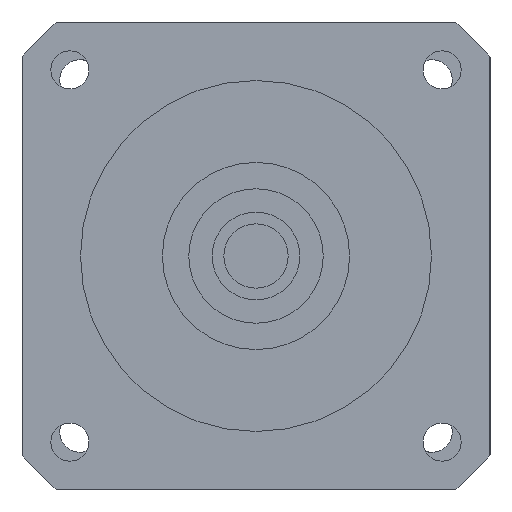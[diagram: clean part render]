
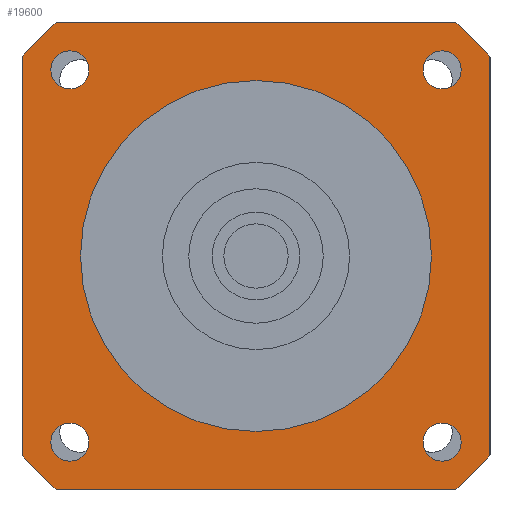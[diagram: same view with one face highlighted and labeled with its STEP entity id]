
A CAD part, left-side view. The second image highlights one B-rep face of the part: STEP entity #19600.
In plain terms, the highlighted planar face has unit normal (-1, 0, 0) as drawn and (0, 0, -1) by its records, which use the part's own axes.
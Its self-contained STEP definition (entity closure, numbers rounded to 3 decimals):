
#17930=CARTESIAN_POINT('',(-28.57,31.82,-42.));
#17940=VERTEX_POINT('',#17930);
#17970=CARTESIAN_POINT('',(-31.82,31.82,-42.));
#17980=DIRECTION('',(0.,0.,-1.));
#17990=DIRECTION('',(-1.,0.,0.));
#18000=AXIS2_PLACEMENT_3D('',#17970,#17980,#17990);
#18010=CIRCLE('',#18000,3.25);
#18020=CARTESIAN_POINT('',(-35.07,31.82,-42.));
#18030=VERTEX_POINT('',#18020);
#18040=EDGE_CURVE('',#18030,#17940,#18010,.T.);
#18160=CARTESIAN_POINT('',(40.,40.,-42.));
#18170=DIRECTION('',(0.,0.,-1.));
#18180=DIRECTION('',(1.,0.,0.));
#18190=AXIS2_PLACEMENT_3D('',#18160,#18170,#18180);
#18200=PLANE('',#18190);
#18210=CARTESIAN_POINT('',(-31.82,-31.82,-42.));
#18220=DIRECTION('',(0.,0.,-1.));
#18230=DIRECTION('',(0.,-1.,0.));
#18240=AXIS2_PLACEMENT_3D('',#18210,#18220,#18230);
#18250=CIRCLE('',#18240,3.25);
#18260=CARTESIAN_POINT('',(-31.82,-35.07,-42.));
#18270=VERTEX_POINT('',#18260);
#18280=CARTESIAN_POINT('',(-31.82,-28.57,-42.));
#18290=VERTEX_POINT('',#18280);
#18300=EDGE_CURVE('',#18270,#18290,#18250,.T.);
#18310=ORIENTED_EDGE('',*,*,#18300,.F.);
#18320=EDGE_CURVE('',#18290,#18270,#18250,.T.);
#18330=ORIENTED_EDGE('',*,*,#18320,.F.);
#18340=EDGE_LOOP('',(#18330,#18310));
#18350=FACE_BOUND('',#18340,.T.);
#18360=ORIENTED_EDGE('',*,*,#18040,.F.);
#18370=EDGE_CURVE('',#17940,#18030,#18010,.T.);
#18380=ORIENTED_EDGE('',*,*,#18370,.F.);
#18390=EDGE_LOOP('',(#18380,#18360));
#18400=FACE_BOUND('',#18390,.T.);
#18410=CARTESIAN_POINT('',(31.82,31.82,-42.));
#18420=DIRECTION('',(0.,0.,-1.));
#18430=DIRECTION('',(0.,1.,0.));
#18440=AXIS2_PLACEMENT_3D('',#18410,#18420,#18430);
#18450=CIRCLE('',#18440,3.25);
#18460=CARTESIAN_POINT('',(31.82,35.07,-42.));
#18470=VERTEX_POINT('',#18460);
#18480=CARTESIAN_POINT('',(31.82,28.57,-42.));
#18490=VERTEX_POINT('',#18480);
#18500=EDGE_CURVE('',#18470,#18490,#18450,.T.);
#18510=ORIENTED_EDGE('',*,*,#18500,.F.);
#18520=EDGE_CURVE('',#18490,#18470,#18450,.T.);
#18530=ORIENTED_EDGE('',*,*,#18520,.F.);
#18540=EDGE_LOOP('',(#18530,#18510));
#18550=FACE_BOUND('',#18540,.T.);
#18560=CARTESIAN_POINT('',(0.,0.,
-42.));
#18570=DIRECTION('',(0.,0.,1.));
#18580=DIRECTION('',(0.,1.,0.));
#18590=AXIS2_PLACEMENT_3D('',#18560,#18570,#18580);
#18600=CIRCLE('',#18590,30.);
#18610=CARTESIAN_POINT('',(-30.,0.,-42.));
#18620=VERTEX_POINT('',#18610);
#18630=CARTESIAN_POINT('',(30.,0.,-42.));
#18640=VERTEX_POINT('',#18630);
#18650=EDGE_CURVE('',#18620,#18640,#18600,.T.);
#18660=ORIENTED_EDGE('',*,*,#18650,.T.);
#18670=CARTESIAN_POINT('',(0.,30.,-42.));
#18680=VERTEX_POINT('',#18670);
#18690=EDGE_CURVE('',#18680,#18620,#18600,.T.);
#18700=ORIENTED_EDGE('',*,*,#18690,.T.);
#18710=EDGE_CURVE('',#18640,#18680,#18600,.T.);
#18720=ORIENTED_EDGE('',*,*,#18710,.T.);
#18730=EDGE_LOOP('',(#18720,#18700,#18660));
#18740=FACE_BOUND('',#18730,.T.);
#18750=CARTESIAN_POINT('',(-40.,40.,-42.));
#18760=DIRECTION('',(1.,0.,0.));
#18770=VECTOR('',#18760,1000.);
#18780=LINE('',#18750,#18770);
#18790=CARTESIAN_POINT('',(-34.004,40.,-42.));
#18800=VERTEX_POINT('',#18790);
#18810=CARTESIAN_POINT('',(34.004,40.,-42.));
#18820=VERTEX_POINT('',#18810);
#18830=EDGE_CURVE('',#18800,#18820,#18780,.T.);
#18840=ORIENTED_EDGE('',*,*,#18830,.T.);
#18850=CARTESIAN_POINT('',(0.,0.,
-42.));
#18860=DIRECTION('',(0.,0.,-1.));
#18870=DIRECTION('',(1.,0.,0.));
#18880=AXIS2_PLACEMENT_3D('',#18850,#18860,#18870);
#18890=CIRCLE('',#18880,52.5);
#18900=CARTESIAN_POINT('',(-40.,34.004,-42.));
#18910=VERTEX_POINT('',#18900);
#18920=EDGE_CURVE('',#18910,#18800,#18890,.T.);
#18930=ORIENTED_EDGE('',*,*,#18920,.T.);
#18940=CARTESIAN_POINT('',(-40.,-40.,-42.));
#18950=DIRECTION('',(0.,1.,0.));
#18960=VECTOR('',#18950,1000.);
#18970=LINE('',#18940,#18960);
#18980=CARTESIAN_POINT('',(-40.,-34.004,-42.));
#18990=VERTEX_POINT('',#18980);
#19000=EDGE_CURVE('',#18990,#18910,#18970,.T.);
#19010=ORIENTED_EDGE('',*,*,#19000,.T.);
#19020=CARTESIAN_POINT('',(0.,0.,
-42.));
#19030=DIRECTION('',(0.,0.,-1.));
#19040=DIRECTION('',(1.,0.,0.));
#19050=AXIS2_PLACEMENT_3D('',#19020,#19030,#19040);
#19060=CIRCLE('',#19050,52.5);
#19070=CARTESIAN_POINT('',(-34.004,-40.,-42.));
#19080=VERTEX_POINT('',#19070);
#19090=EDGE_CURVE('',#19080,#18990,#19060,.T.);
#19100=ORIENTED_EDGE('',*,*,#19090,.T.);
#19110=CARTESIAN_POINT('',(40.,-40.,-42.));
#19120=DIRECTION('',(-1.,0.,0.));
#19130=VECTOR('',#19120,1000.);
#19140=LINE('',#19110,#19130);
#19150=CARTESIAN_POINT('',(34.004,-40.,-42.));
#19160=VERTEX_POINT('',#19150);
#19170=EDGE_CURVE('',#19160,#19080,#19140,.T.);
#19180=ORIENTED_EDGE('',*,*,#19170,.T.);
#19190=CARTESIAN_POINT('',(0.,0.,
-42.));
#19200=DIRECTION('',(0.,0.,-1.));
#19210=DIRECTION('',(1.,0.,0.));
#19220=AXIS2_PLACEMENT_3D('',#19190,#19200,#19210);
#19230=CIRCLE('',#19220,52.5);
#19240=CARTESIAN_POINT('',(40.,-34.004,-42.));
#19250=VERTEX_POINT('',#19240);
#19260=EDGE_CURVE('',#19250,#19160,#19230,.T.);
#19270=ORIENTED_EDGE('',*,*,#19260,.T.);
#19280=CARTESIAN_POINT('',(40.,40.,-42.));
#19290=DIRECTION('',(0.,-1.,0.));
#19300=VECTOR('',#19290,1000.);
#19310=LINE('',#19280,#19300);
#19320=CARTESIAN_POINT('',(40.,34.004,-42.));
#19330=VERTEX_POINT('',#19320);
#19340=EDGE_CURVE('',#19330,#19250,#19310,.T.);
#19350=ORIENTED_EDGE('',*,*,#19340,.T.);
#19360=CARTESIAN_POINT('',(0.,0.,
-42.));
#19370=DIRECTION('',(0.,0.,-1.));
#19380=DIRECTION('',(1.,0.,0.));
#19390=AXIS2_PLACEMENT_3D('',#19360,#19370,#19380);
#19400=CIRCLE('',#19390,52.5);
#19410=EDGE_CURVE('',#18820,#19330,#19400,.T.);
#19420=ORIENTED_EDGE('',*,*,#19410,.T.);
#19430=EDGE_LOOP('',(#19420,#19350,#19270,#19180,#19100,#19010,#18930,
#18840));
#19440=FACE_OUTER_BOUND('',#19430,.T.);
#19450=CARTESIAN_POINT('',(31.82,-31.82,-42.));
#19460=DIRECTION('',(0.,0.,-1.));
#19470=DIRECTION('',(1.,0.,0.));
#19480=AXIS2_PLACEMENT_3D('',#19450,#19460,#19470);
#19490=CIRCLE('',#19480,3.25);
#19500=CARTESIAN_POINT('',(35.07,-31.82,-42.));
#19510=VERTEX_POINT('',#19500);
#19520=CARTESIAN_POINT('',(28.57,-31.82,-42.));
#19530=VERTEX_POINT('',#19520);
#19540=EDGE_CURVE('',#19510,#19530,#19490,.T.);
#19550=ORIENTED_EDGE('',*,*,#19540,.F.);
#19560=EDGE_CURVE('',#19530,#19510,#19490,.T.);
#19570=ORIENTED_EDGE('',*,*,#19560,.F.);
#19580=EDGE_LOOP('',(#19570,#19550));
#19590=FACE_BOUND('',#19580,.T.);
#19600=ADVANCED_FACE('',(#18350,#18400,#18550,#18740,#19440,#19590),
#18200,.T.);
